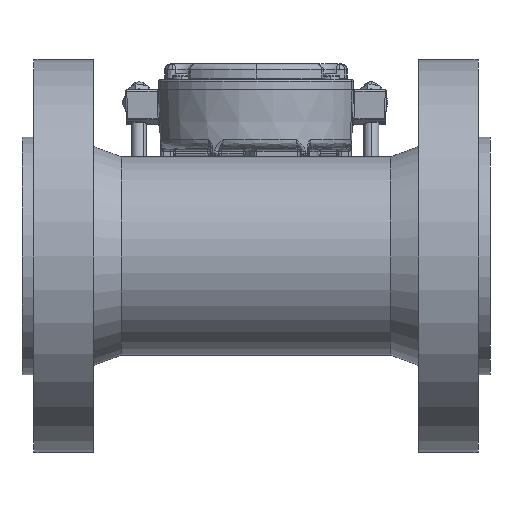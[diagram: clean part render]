
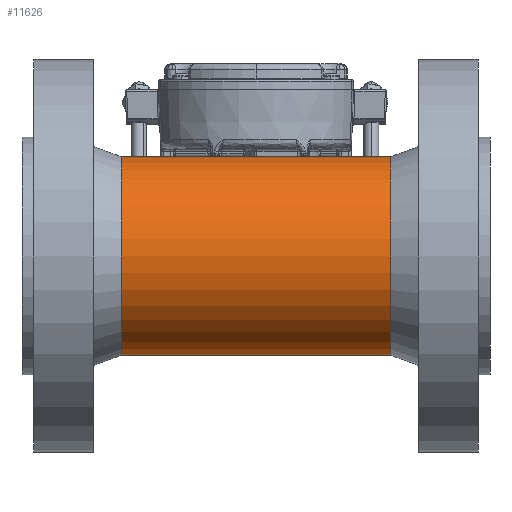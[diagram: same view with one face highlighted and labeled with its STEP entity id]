
A CAD part, left-side view. The second image highlights one B-rep face of the part: STEP entity #11626.
In plain terms, the highlighted cylindrical face has radius 53 mm (diameter 106 mm), a partial arc.
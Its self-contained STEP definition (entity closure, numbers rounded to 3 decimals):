
#384 = CARTESIAN_POINT ( 'NONE',  ( 0., 53., 0. ) ) ;
#1101 = ORIENTED_EDGE ( 'NONE', *, *, #28685, .F. ) ;
#1267 = VERTEX_POINT ( 'NONE', #29317 ) ;
#1328 = DIRECTION ( 'NONE',  ( 0., 0., -1. ) ) ;
#1783 = CARTESIAN_POINT ( 'NONE',  ( 0., 197., 53. ) ) ;
#1928 = EDGE_CURVE ( 'NONE', #21959, #1267, #10208, .T. ) ;
#3208 = DIRECTION ( 'NONE',  ( 0., 0., -1. ) ) ;
#4906 = DIRECTION ( 'NONE',  ( 0., -1., 0. ) ) ;
#5275 = VERTEX_POINT ( 'NONE', #31553 ) ;
#5405 = LINE ( 'NONE', #32339, #21323 ) ;
#5832 = EDGE_CURVE ( 'NONE', #1267, #23523, #5405, .T. ) ;
#7117 = DIRECTION ( 'NONE',  ( 0., -1., 0. ) ) ;
#9161 = CIRCLE ( 'NONE', #23222, 53. ) ;
#10105 = CARTESIAN_POINT ( 'NONE',  ( 0., 53., -53. ) ) ;
#10208 = CIRCLE ( 'NONE', #10766, 53. ) ;
#10766 = AXIS2_PLACEMENT_3D ( 'NONE', #16797, #11708, #30498 ) ;
#11120 = DIRECTION ( 'NONE',  ( 0., -1., 0. ) ) ;
#11626 = ADVANCED_FACE ( 'NONE', ( #33848 ), #25438, .T. ) ;
#11708 = DIRECTION ( 'NONE',  ( 0., -1., 0. ) ) ;
#13421 = EDGE_CURVE ( 'NONE', #21959, #5275, #20939, .T. ) ;
#16162 = DIRECTION ( 'NONE',  ( 0., -1., 0. ) ) ;
#16797 = CARTESIAN_POINT ( 'NONE',  ( 0., 197., 0. ) ) ;
#17505 = CARTESIAN_POINT ( 'NONE',  ( 0., 0., 0. ) ) ;
#19914 = ORIENTED_EDGE ( 'NONE', *, *, #13421, .F. ) ;
#20939 = LINE ( 'NONE', #29016, #21312 ) ;
#21312 = VECTOR ( 'NONE', #4906, 1000. ) ;
#21323 = VECTOR ( 'NONE', #16162, 1000. ) ;
#21959 = VERTEX_POINT ( 'NONE', #1783 ) ;
#23222 = AXIS2_PLACEMENT_3D ( 'NONE', #384, #11120, #3208 ) ;
#23523 = VERTEX_POINT ( 'NONE', #10105 ) ;
#25438 = CYLINDRICAL_SURFACE ( 'NONE', #33055, 53. ) ;
#26417 = ORIENTED_EDGE ( 'NONE', *, *, #1928, .T. ) ;
#28685 = EDGE_CURVE ( 'NONE', #5275, #23523, #9161, .T. ) ;
#28742 = EDGE_LOOP ( 'NONE', ( #19914, #26417, #30916, #1101 ) ) ;
#29016 = CARTESIAN_POINT ( 'NONE',  ( 0., 0., 53. ) ) ;
#29317 = CARTESIAN_POINT ( 'NONE',  ( 0., 197., -53. ) ) ;
#30498 = DIRECTION ( 'NONE',  ( 0., 0., -1. ) ) ;
#30916 = ORIENTED_EDGE ( 'NONE', *, *, #5832, .T. ) ;
#31553 = CARTESIAN_POINT ( 'NONE',  ( 0., 53., 53. ) ) ;
#32339 = CARTESIAN_POINT ( 'NONE',  ( 0., 0., -53. ) ) ;
#33055 = AXIS2_PLACEMENT_3D ( 'NONE', #17505, #7117, #1328 ) ;
#33848 = FACE_OUTER_BOUND ( 'NONE', #28742, .T. ) ;
